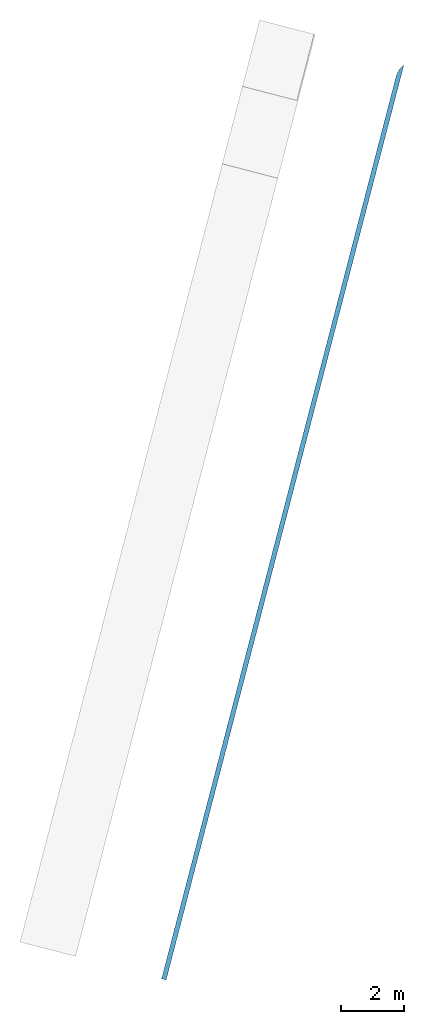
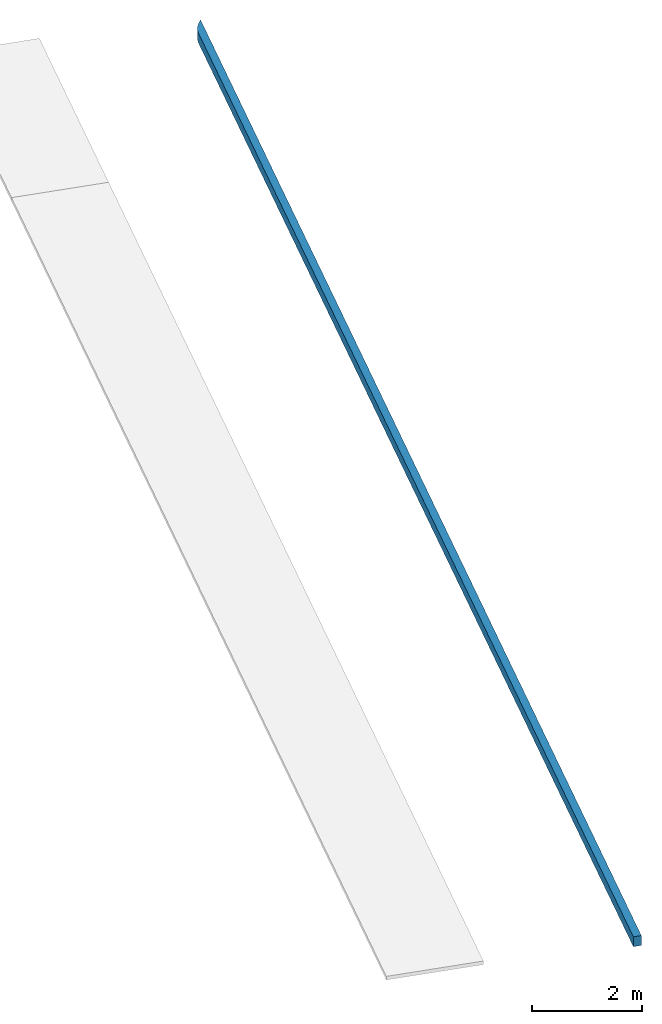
# One storey, part 1 of 2: 1 slab.
"""IFC2X3 building model written with IfcOpenShell, lengths in millimetres."""

from ifc_helpers import new_model, entity, si_unit, converted_unit, derived_unit, direction, frame, origin, origin_with_axes, place, context, subcontext, project, spatial, faceted_brep, material, layer, layer_set, type_object, element, save


model = new_model("IFC2X3")

# Units and contexts
plan_context = context("Plan", 3, precision=1e-05, world=origin_with_axes())
model_context = context("Model", 3, precision=0.01, world=origin(), true_north=direction((6.12323399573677e-17, 1.0)))
body_context = subcontext(model_context, "Body", "Model", "MODEL_VIEW")
ifc_project = project(units=[converted_unit("PLANEANGLEUNIT", "DEGREE", entity("IfcPositiveLengthMeasure", 0.0174532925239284), si_unit("PLANEANGLEUNIT", "RADIAN"), dimensions=[0, 0, 0, 0, 0, 0, 0]), si_unit("AREAUNIT", "SQUARE_METRE"), si_unit("LENGTHUNIT", "METRE", prefix="MILLI"), si_unit("MASSUNIT", "GRAM", prefix="KILO"), si_unit("POWERUNIT", "WATT"), si_unit("PRESSUREUNIT", "PASCAL", prefix="KILO"), si_unit("FORCEUNIT", "NEWTON", prefix="KILO"), si_unit("ELECTRICVOLTAGEUNIT", "VOLT"), si_unit("ELECTRICCURRENTUNIT", "AMPERE"), si_unit("THERMODYNAMICTEMPERATUREUNIT", "DEGREE_CELSIUS"), si_unit("TIMEUNIT", "SECOND"), si_unit("VOLUMEUNIT", "CUBIC_METRE"), derived_unit("LINEARVELOCITYUNIT", [(si_unit("LENGTHUNIT", "METRE"), 1), (si_unit("TIMEUNIT", "SECOND"), -1)]), derived_unit("VOLUMETRICFLOWRATEUNIT", [(si_unit("VOLUMEUNIT", "CUBIC_METRE"), 1), (si_unit("TIMEUNIT", "SECOND"), -1)]), derived_unit("THERMALTRANSMITTANCEUNIT", [(si_unit("POWERUNIT", "WATT"), 1), (si_unit("THERMODYNAMICTEMPERATUREUNIT", "KELVIN"), -1), (si_unit("AREAUNIT", "SQUARE_METRE"), -1)]), derived_unit("SOUNDPRESSUREUNIT", [(si_unit("PRESSUREUNIT", "PASCAL"), 1)])], contexts=[model_context, plan_context])

# Site, building, storey
site_placement = place(None, frame((0.0, -2.21771188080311e-09, 0.0), z_axis=(0.0, 0.0, 1.0), x_axis=(0.266093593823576, -0.963947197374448, 0.0)))
site = spatial("IfcSite", under=ifc_project, at=site_placement, Name="ENZV", CompositionType="ELEMENT")
building_placement = place(site_placement, origin_with_axes())
building = spatial("IfcBuilding", under=site, at=building_placement, Name="ZV001", CompositionType="ELEMENT")
storey_placement = place(building_placement, frame((0.0, 0.0, 9300.0), z_axis=(0.0, 0.0, 1.0), x_axis=(1.0, 0.0, 0.0)))
storey = spatial("IfcBuildingStorey", under=building, at=storey_placement, Name="H02", CompositionType="ELEMENT", Elevation=9300.0)

# Slab
ifc_material = material(Name="Betong - Plasstøpt")
ifc_layer = layer(ifc_material, 220.0)
ifc_layer_set = layer_set([ifc_layer], Name="Floor:Standard 220mm")
slab_type = type_object("IfcSlabType", Name="Floor:Standard 220mm", PredefinedType="FLOOR", material=ifc_layer_set)
slab_placement = place(storey_placement, origin_with_axes())
element("IfcSlab", 1, at=slab_placement, inside=storey, type_object=slab_type, Name="Floor:Standard 220mm", ObjectType="Floor:Standard 220mm", PredefinedType="FLOOR", context=body_context, shape_type="Brep", body=[
    faceted_brep([(-154519.771060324, 378007.101595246, -910.0), (-154519.771060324, 378007.101595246, -1130.0), (-180298.406561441, 392890.403380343, -1130.0), (-180298.406561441, 392890.403380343, -910.0), (-180382.876618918, 392955.201790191, -1130.0), (-180382.876618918, 392955.201790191, -910.0), (-180455.675372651, 393032.88297185, -1130.0), (-180455.675372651, 393032.88297185, -910.0), (-180514.861879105, 393121.375807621, -1130.0), (-180514.861879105, 393121.375807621, -910.0), (-180555.933236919, 393211.875979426, -1130.0), (-180555.933236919, 393211.875979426, -910.0), (-162823.078768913, 382974.532775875, -910.0), (-162823.212689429, 382974.300818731, -910.0), (-161762.331563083, 382361.800829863, -910.0), (-161762.178864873, 382362.065310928, -910.0), (-154444.492838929, 378137.496534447, -910.0), (-154444.492838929, 378137.496534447, -1130.0), (-161762.178864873, 382362.065310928, -1130.0), (-161762.331563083, 382361.800829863, -1130.0), (-162823.212689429, 382974.300818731, -1130.0), (-162823.078768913, 382974.532775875, -1130.0)], [[[0, 1, 2, 3]], [[3, 2, 4, 5]], [[5, 4, 6, 7]], [[7, 6, 8, 9]], [[10, 11, 9, 8]], [[11, 12, 13, 14, 15, 16, 0, 3, 5, 7, 9]], [[1, 17, 18, 19, 20, 21, 10, 8, 6, 4, 2]], [[19, 14, 13, 20]], [[18, 15, 14, 19]], [[12, 21, 20, 13]], [[17, 1, 0, 16]], [[16, 15, 18, 17]], [[21, 12, 11, 10]]], orient=[[False], [False], [False], [False], [False], [False], [False], [False], [False], [False], [False], [False], [False]]),
])

save(model, "model.ifc")
